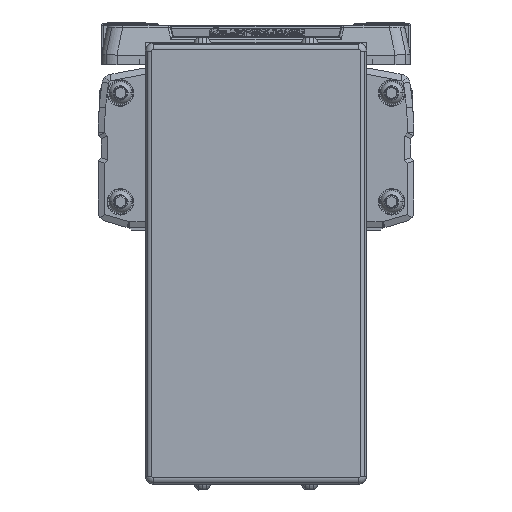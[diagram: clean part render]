
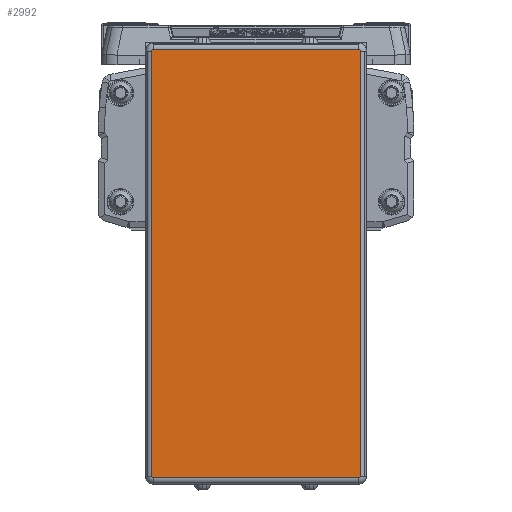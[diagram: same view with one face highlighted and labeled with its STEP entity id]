
A CAD part, left-side view. The second image highlights one B-rep face of the part: STEP entity #2992.
In plain terms, the highlighted planar face has unit normal (-1, 0, 0).
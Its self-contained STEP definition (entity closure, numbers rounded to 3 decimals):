
#2992=ADVANCED_FACE('',(#7527),#7528,.F.);
#7527=FACE_OUTER_BOUND('',#14107,.T.);
#7528=PLANE('',#14108);
#14107=EDGE_LOOP('',(#22635,#22636,#22637,#22638,#22639,#22640,#22641,#22642));
#14108=AXIS2_PLACEMENT_3D('',#22643,#22644,#22645);
#22635=ORIENTED_EDGE('',*,*,#39745,.T.);
#22636=ORIENTED_EDGE('',*,*,#39746,.T.);
#22637=ORIENTED_EDGE('',*,*,#39747,.T.);
#22638=ORIENTED_EDGE('',*,*,#39748,.T.);
#22639=ORIENTED_EDGE('',*,*,#39749,.T.);
#22640=ORIENTED_EDGE('',*,*,#39750,.T.);
#22641=ORIENTED_EDGE('',*,*,#38564,.T.);
#22642=ORIENTED_EDGE('',*,*,#39751,.T.);
#22643=CARTESIAN_POINT('',(-616.0,0.,-41.6));
#22644=DIRECTION('',(1.0,0.,0.));
#22645=DIRECTION('',(0.,0.,1.0));
#38564=EDGE_CURVE('',#46260,#46258,#46261,.T.);
#39745=EDGE_CURVE('',#48305,#48306,#48307,.T.);
#39746=EDGE_CURVE('',#48306,#48308,#48309,.T.);
#39747=EDGE_CURVE('',#48308,#48310,#48311,.T.);
#39748=EDGE_CURVE('',#48310,#48312,#48313,.T.);
#39749=EDGE_CURVE('',#48312,#48314,#48315,.T.);
#39750=EDGE_CURVE('',#48314,#46260,#48316,.T.);
#39751=EDGE_CURVE('',#46258,#48305,#48317,.T.);
#46258=VERTEX_POINT('',#57206);
#46260=VERTEX_POINT('',#57208);
#46261=LINE('',#57209,#57210);
#48305=VERTEX_POINT('',#60003);
#48306=VERTEX_POINT('',#60004);
#48307=LINE('',#60005,#60006);
#48308=VERTEX_POINT('',#60007);
#48309=CIRCLE('',#60008,0.5);
#48310=VERTEX_POINT('',#60009);
#48311=LINE('',#60010,#60011);
#48312=VERTEX_POINT('',#60012);
#48313=CIRCLE('',#60013,0.5);
#48314=VERTEX_POINT('',#60014);
#48315=LINE('',#60015,#60016);
#48316=CIRCLE('',#60017,0.5);
#48317=CIRCLE('',#60018,0.5);
#57206=CARTESIAN_POINT('',(-616.0,-32.55,-109.5));
#57208=CARTESIAN_POINT('',(-616.0,32.55,-109.5));
#57209=CARTESIAN_POINT('',(-616.0,0.,-109.5));
#57210=VECTOR('',#70764,10.0);
#60003=CARTESIAN_POINT('',(-616.0,-33.05,-109.));
#60004=CARTESIAN_POINT('',(-616.,-33.05,25.8));
#60005=CARTESIAN_POINT('',(-616.,-33.05,-41.6));
#60006=VECTOR('',#72489,10.0);
#60007=CARTESIAN_POINT('',(-616.,-32.55,26.3));
#60008=AXIS2_PLACEMENT_3D('',#72490,#72491,#72492);
#60009=CARTESIAN_POINT('',(-616.,32.55,26.3));
#60010=CARTESIAN_POINT('',(-616.,0.,26.3));
#60011=VECTOR('',#72493,10.0);
#60012=CARTESIAN_POINT('',(-616.,33.05,25.8));
#60013=AXIS2_PLACEMENT_3D('',#72494,#72495,#72496);
#60014=CARTESIAN_POINT('',(-616.0,33.05,-109.));
#60015=CARTESIAN_POINT('',(-616.0,33.05,-41.6));
#60016=VECTOR('',#72497,10.0);
#60017=AXIS2_PLACEMENT_3D('',#72498,#72499,#72500);
#60018=AXIS2_PLACEMENT_3D('',#72501,#72502,#72503);
#70764=DIRECTION('',(0.,-1.0,0.));
#72489=DIRECTION('',(0.,0.,1.0));
#72490=CARTESIAN_POINT('',(-616.,-32.55,25.8));
#72491=DIRECTION('',(-1.0,0.,0.));
#72492=DIRECTION('',(0.,-0.707,0.707));
#72493=DIRECTION('',(0.,1.0,0.));
#72494=CARTESIAN_POINT('',(-616.,32.55,25.8));
#72495=DIRECTION('',(-1.0,0.,0.));
#72496=DIRECTION('',(0.,0.707,0.707));
#72497=DIRECTION('',(0.,0.,-1.0));
#72498=CARTESIAN_POINT('',(-616.0,32.55,-109.));
#72499=DIRECTION('',(-1.0,0.,0.));
#72500=DIRECTION('',(0.,0.707,-0.707));
#72501=CARTESIAN_POINT('',(-616.0,-32.55,-109.));
#72502=DIRECTION('',(-1.0,0.,0.));
#72503=DIRECTION('',(0.,-0.707,-0.707));
